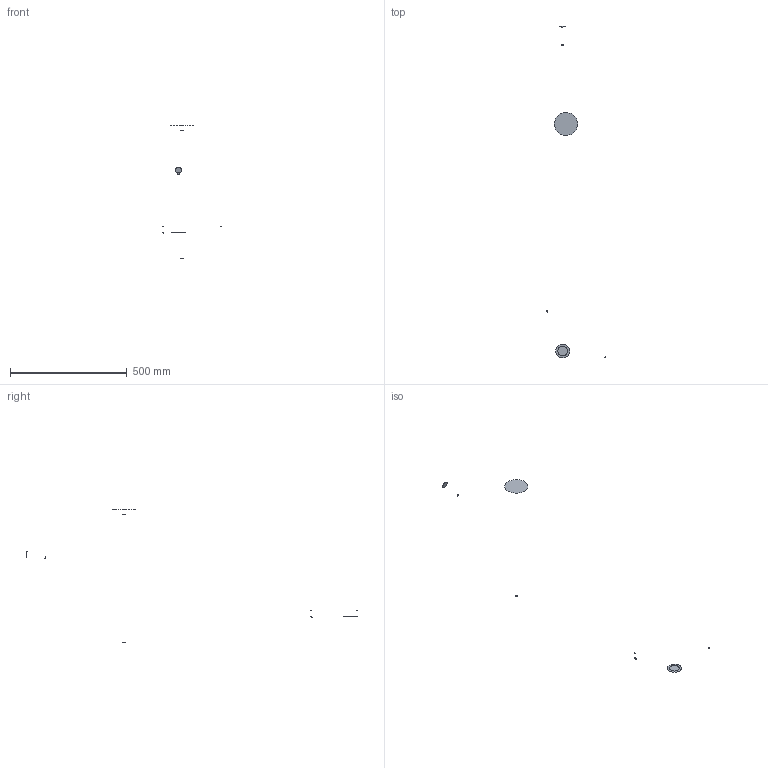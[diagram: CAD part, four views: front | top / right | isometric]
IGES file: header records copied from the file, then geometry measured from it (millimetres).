
Start section: SolidWorks IGES file using analytic representation for surfaces
Global section: file name: X:\PRODUKT\Modele 3D_WWW\_KOLEKCJE WWW\VIPER\6641\VIPER-I-6641.IGS; native system: SolidWorks 2021; preprocessor: SolidWorks 2021; author: gabriela.tworek; date: 220713.095028; units: millimetre
Bounding box: 252.88 x 1424.51 x 574.55 mm (x, y, z)
Surface area: 5142.5 mm2 (no closed solid volume)
Topology: 0 solids, 0 shells, 79 faces, 158 edges, 206 vertices
Faces by surface type: revolution 41, bspline 38
